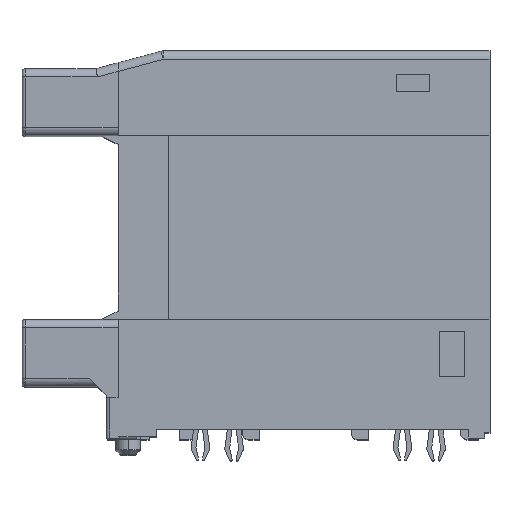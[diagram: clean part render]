
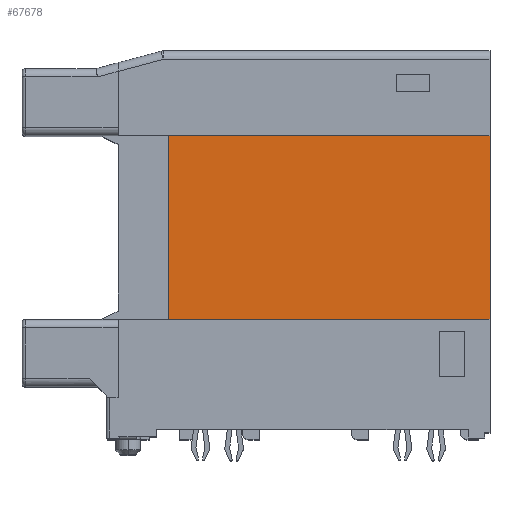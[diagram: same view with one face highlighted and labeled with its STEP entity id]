
A CAD part, top view. The second image highlights one B-rep face of the part: STEP entity #67678.
In plain terms, the highlighted planar face has unit normal (0, 0, 1).
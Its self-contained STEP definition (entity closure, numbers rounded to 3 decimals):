
#4810=DIRECTION('',(0.,1.,0.));
#4811=VECTOR('',#4810,10.9);
#4812=CARTESIAN_POINT('',(22.9,6.72,9.935));
#4813=LINE('',#4812,#4811);
#17184=DIRECTION('',(-1.,0.,0.));
#17185=VECTOR('',#17184,19.09);
#17186=CARTESIAN_POINT('',(22.9,17.62,9.935));
#17187=LINE('',#17186,#17185);
#18400=DIRECTION('',(0.,1.,0.));
#18401=VECTOR('',#18400,10.9);
#18402=CARTESIAN_POINT('',(3.81,6.72,9.935));
#18403=LINE('',#18402,#18401);
#18404=DIRECTION('',(-1.,0.,0.));
#18405=VECTOR('',#18404,19.09);
#18406=CARTESIAN_POINT('',(22.9,6.72,9.935));
#18407=LINE('',#18406,#18405);
#32907=CARTESIAN_POINT('',(22.9,6.72,9.935));
#32908=VERTEX_POINT('',#32907);
#32909=CARTESIAN_POINT('',(22.9,17.62,9.935));
#32910=VERTEX_POINT('',#32909);
#38483=CARTESIAN_POINT('',(3.81,6.72,9.935));
#38484=VERTEX_POINT('',#38483);
#38558=CARTESIAN_POINT('',(3.81,17.62,9.935));
#38559=VERTEX_POINT('',#38558);
#67666=CARTESIAN_POINT('',(0.81,17.62,9.935));
#67667=DIRECTION('',(0.,0.,-1.));
#67668=DIRECTION('',(0.,-1.,0.));
#67669=AXIS2_PLACEMENT_3D('',#67666,#67667,#67668);
#67670=PLANE('',#67669);
#67672=ORIENTED_EDGE('',*,*,#67671,.T.);
#67673=ORIENTED_EDGE('',*,*,#65859,.F.);
#67674=ORIENTED_EDGE('',*,*,#48480,.F.);
#67675=ORIENTED_EDGE('',*,*,#50827,.T.);
#67676=EDGE_LOOP('',(#67672,#67673,#67674,#67675));
#67677=FACE_OUTER_BOUND('',#67676,.F.);
#67678=ADVANCED_FACE('',(#67677),#67670,.F.);
#48480=EDGE_CURVE('',#32908,#32910,#4813,.T.);
#50827=EDGE_CURVE('',#32908,#38484,#18407,.T.);
#65859=EDGE_CURVE('',#32910,#38559,#17187,.T.);
#67671=EDGE_CURVE('',#38484,#38559,#18403,.T.);
